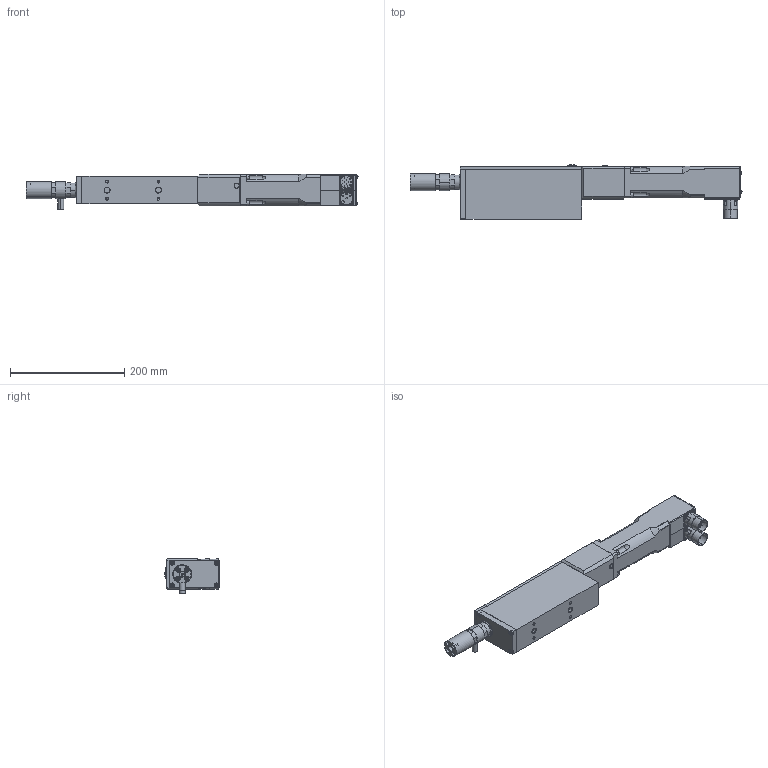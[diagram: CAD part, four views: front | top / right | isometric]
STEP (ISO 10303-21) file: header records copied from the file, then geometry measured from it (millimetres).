
FILE_DESCRIPTION (( 'STEP AP203' ), '1' );
FILE_NAME ('KM PR5IP010-010-040N.STEP', '2021-02-05T10:24:08', ( '' ), ( '' ), 'SwSTEP 2.0', 'SolidWorks 2016', '' );
FILE_SCHEMA (( 'CONFIG_CONTROL_DESIGN' ));
Length unit declared in the file: millimetre
Products named in the file (1): KM PR5IP010-010-040N
Bounding box: 581.59 x 95.58 x 61.5 mm (x, y, z)
Volume: 1537699.6 mm3; surface area: 283322.7 mm2
Topology: 29 solids, 41 shells, 2108 faces, 4914 edges, 2909 vertices
Faces by surface type: plane 970, cylinder 593, cone 410, bspline 82, torus 40, sphere 13
Entity records: 62458 total; most frequent: CARTESIAN_POINT 15446, DIRECTION 9961, ORIENTED_EDGE 9480, EDGE_CURVE 4740, AXIS2_PLACEMENT_3D 3830, VERTEX_POINT 2896, EDGE_LOOP 2412, LINE 2301
